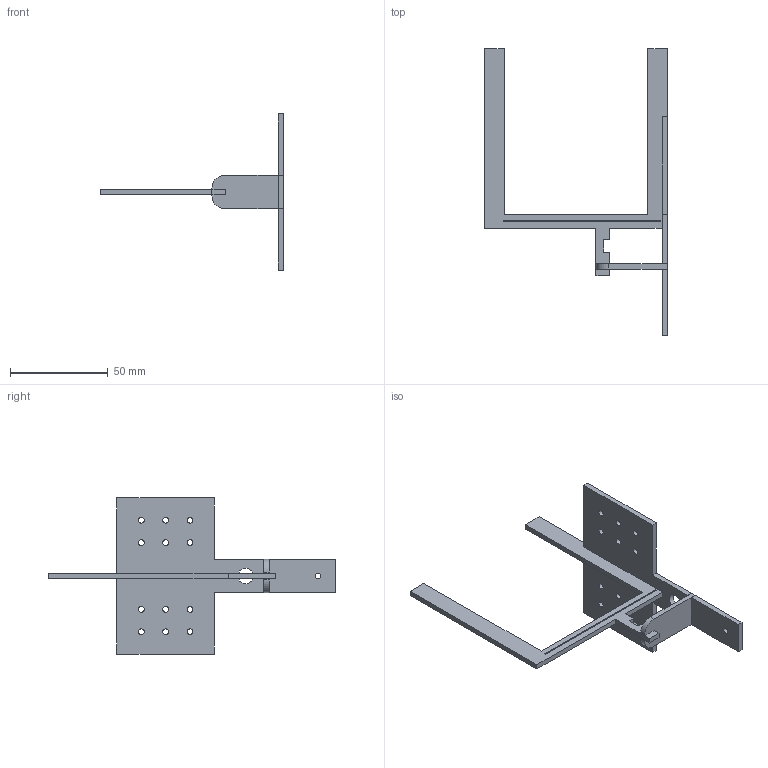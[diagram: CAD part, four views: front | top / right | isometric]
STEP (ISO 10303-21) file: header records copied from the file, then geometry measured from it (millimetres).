
FILE_DESCRIPTION(/* description */ (''),/* implementation_level */ '2;1');
FILE_NAME(/* name */ 'ornithopter2.step',/* time_stamp */ '2023-04-02T15:47:34+02:00',/* author */ (''),/* organization */ (''),/* preprocessor_version */ 'ST-DEVELOPER v19.2',/* originating_system */ 'Autodesk Translation Framework v11.17.0.187',/* authorisation */ '');
FILE_SCHEMA (('AUTOMOTIVE_DESIGN { 1 0 10303 214 3 1 1 }'));
Length unit declared in the file: millimetre
Products named in the file (1): assembly_chicken
Bounding box: 93.6 x 147 x 80 mm (x, y, z)
Volume: 20963.1 mm3; surface area: 19687.4 mm2
Topology: 3 solids, 3 shells, 80 faces, 222 edges, 148 vertices
Faces by surface type: plane 64, cylinder 16
Full cylindrical faces by diameter (mm): 3 x13, 8 x1
Entity records: 2629 total; most frequent: CARTESIAN_POINT 451, ORIENTED_EDGE 444, DIRECTION 416, EDGE_CURVE 222, LINE 190, VECTOR 190, VERTEX_POINT 148, AXIS2_PLACEMENT_3D 113
